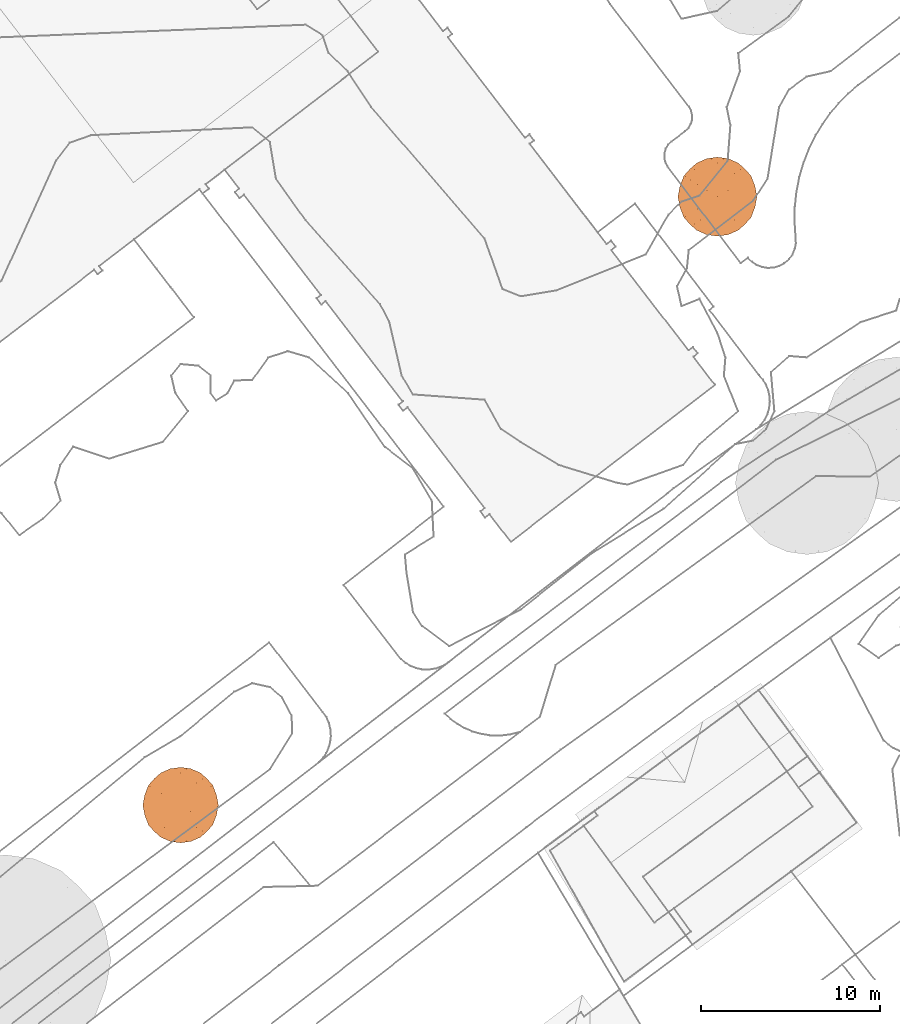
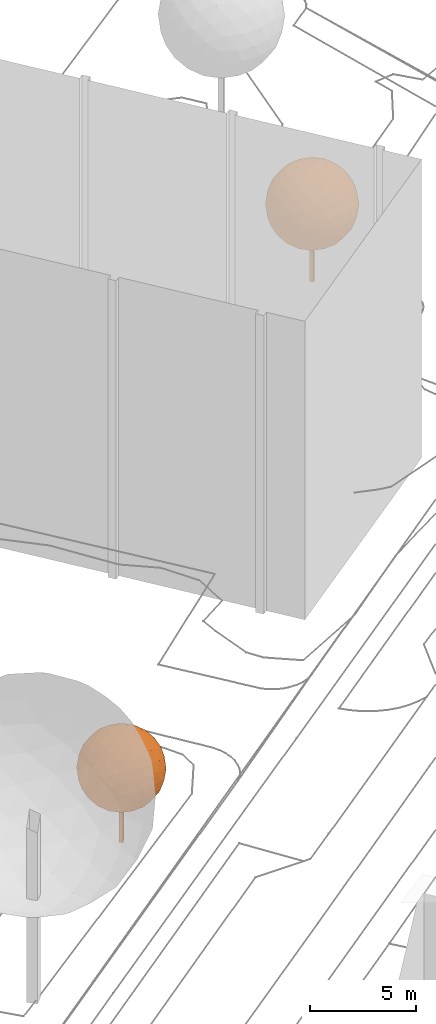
# Not in any storey, part 374 of 494: 2 proxies.
"""IFC2X3 model written with IfcOpenShell, lengths in metres."""

from ifc_helpers import new_model, si_unit, frame, origin_with_axes, place, context, subcontext, project, faceted_brep, element, save


model = new_model("IFC2X3")

# Units and contexts
model_context = context("Model", 3, precision=1e-05, world=origin_with_axes())
body_context = subcontext(model_context, "Body", "Model", "MODEL_VIEW")
ifc_project = project(units=[si_unit("AREAUNIT", "SQUARE_METRE"), si_unit("LENGTHUNIT", "METRE")], contexts=[model_context])

# Proxies
proxy_1_placement = place(None, frame((433.6777320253, 179.170737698, 504.3310243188), z_axis=(0.0, 0.0, 1.0), x_axis=(1.0, 0.0, 0.0)))
element("IfcBuildingElementProxy", 1, at=proxy_1_placement, Name="Tree TR1 CD44", ObjectType="NOTDEFINED", context=body_context, shape_type="Brep", body=[
    faceted_brep([(0.0, 0.1405498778, 0.0), (0.1405498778, 0.0, 0.0), (0.0, -0.1405498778, 0.0), (-0.1405498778, 0.0, 0.0), (0.0, -0.1405498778, 4.4155046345), (0.1405498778, 0.0, 4.4155046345), (0.0, 0.1405498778, 4.4155046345), (-0.1405498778, 0.0, 4.4155046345)], [[[0, 1, 2]], [[2, 3, 0]], [[4, 5, 6]], [[6, 7, 4]], [[4, 7, 2]], [[2, 7, 3]], [[7, 6, 3]], [[3, 6, 0]], [[5, 4, 1]], [[1, 4, 2]], [[6, 5, 0]], [[0, 5, 1]]]),
    faceted_brep([(-1.160684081, 1.8780262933, 4.4155046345), (-1.531695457, 1.5499446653, 4.7701183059), (-0.9579184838, 1.9045583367, 4.9892816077), (-1.786109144, 1.1038761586, 5.0977376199), (-1.2976842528, 1.5193551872, 5.3545177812), (-0.6822329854, 1.786109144, 5.5193807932), (-1.9045583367, 0.5737769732, 5.3734231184), (-1.5193551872, 0.9390131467, 5.7131888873), (-1.8780262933, 0.0, 5.5761887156), (-1.5499446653, 0.3546136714, 5.9472000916), (-1.1038761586, 0.6822329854, 6.2016137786), (-0.9390131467, 1.2976842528, 5.9348598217), (-0.3546136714, 1.531695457, 5.9654492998), (-0.5737769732, 0.9579184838, 6.3200629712), (0.0, 1.160684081, 6.2935309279), (-0.6033048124, 2.1237216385, 4.4155046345), (-0.3586711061, 2.0996972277, 4.9958466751), (0.0, 2.2077523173, 4.4155046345), (0.0, 1.8780262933, 5.5761887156), (0.3546136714, 1.531695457, 5.9654492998), (0.6822329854, 1.786109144, 5.5193807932), (0.3586711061, 2.0996972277, 4.9958466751), (0.6033048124, 2.1237216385, 4.4155046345), (0.9579184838, 1.9045583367, 4.9892816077), (1.160684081, 1.8780262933, 4.4155046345), (-0.9579184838, 1.9045583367, 3.8417276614), (-0.3586711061, 2.0996972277, 3.835162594), (-0.6822329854, 1.786109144, 3.3116284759), (0.3586711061, 2.0996972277, 3.835162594), (0.9579184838, 1.9045583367, 3.8417276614), (0.6822329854, 1.786109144, 3.3116284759), (0.0, 1.8780262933, 3.2548205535), (-0.3546136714, 1.531695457, 2.8655599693), (0.3546136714, 1.531695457, 2.8655599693), (0.0, 1.160684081, 2.5374783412), (-1.531695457, 1.5499446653, 4.0608909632), (-1.2976842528, 1.5193551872, 3.4764914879), (-1.786109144, 1.1038761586, 3.7332716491), (-0.9390131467, 1.2976842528, 2.8961494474), (-0.5737769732, 0.9579184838, 2.5109462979), (-1.1038761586, 0.6822329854, 2.6293954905), (-1.5193551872, 0.9390131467, 3.1178203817), (-1.9045583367, 0.5737769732, 3.4575861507), (-1.5499446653, 0.3546136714, 2.8838091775), (-1.8780262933, 0.0, 3.2548205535), (-1.8780262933, 1.160684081, 4.4155046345), (-2.0996972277, 0.5803420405, 4.0568335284), (-2.1237216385, 0.0, 3.8121998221), (-2.2077523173, 0.0, 4.4155046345), (-2.0996972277, 0.5803420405, 4.7741757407), (-2.1237216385, 0.0, 5.018809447), (1.531695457, 1.5499446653, 4.7701183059), (1.2976842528, 1.5193551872, 5.3545177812), (1.786109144, 1.1038761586, 5.0977376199), (0.9390131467, 1.2976842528, 5.9348598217), (0.5737769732, 0.9579184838, 6.3200629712), (1.1038761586, 0.6822329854, 6.2016137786), (1.5193551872, 0.9390131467, 5.7131888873), (1.9045583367, 0.5737769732, 5.3734231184), (1.5499446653, 0.3546136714, 5.9472000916), (1.8780262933, 0.0, 5.5761887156), (0.0, 0.6033048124, 6.539226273), (-0.5803420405, 0.3586711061, 6.5152018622), (0.0, 0.0, 6.6232569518), (-1.160684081, 0.0, 6.2935309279), (-1.5499446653, -0.3546136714, 5.9472000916), (-1.1038761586, -0.6822329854, 6.2016137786), (-0.5803420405, -0.3586711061, 6.5152018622), (0.0, -0.6033048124, 6.539226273), (-0.5737769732, -0.9579184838, 6.3200629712), (0.0, -1.160684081, 6.2935309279), (-1.9045583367, -0.5737769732, 5.3734231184), (-2.0996972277, -0.5803420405, 4.7741757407), (-1.786109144, -1.1038761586, 5.0977376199), (-2.0996972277, -0.5803420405, 4.0568335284), (-1.9045583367, -0.5737769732, 3.4575861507), (-1.786109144, -1.1038761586, 3.7332716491), (-1.8780262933, -1.160684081, 4.4155046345), (-1.531695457, -1.5499446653, 4.7701183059), (-1.531695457, -1.5499446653, 4.0608909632), (-1.160684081, -1.8780262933, 4.4155046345), (-1.5499446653, -0.3546136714, 2.8838091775), (-1.160684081, 0.0, 2.5374783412), (-1.1038761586, -0.6822329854, 2.6293954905), (-0.5803420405, 0.3586711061, 2.3158074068), (0.0, 0.6033048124, 2.2917829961), (0.0, 0.0, 2.2077523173), (-0.5803420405, -0.3586711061, 2.3158074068), (-0.5737769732, -0.9579184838, 2.5109462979), (0.0, -0.6033048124, 2.2917829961), (0.0, -1.160684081, 2.5374783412), (0.5737769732, 0.9579184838, 2.5109462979), (0.9390131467, 1.2976842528, 2.8961494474), (1.1038761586, 0.6822329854, 2.6293954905), (1.2976842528, 1.5193551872, 3.4764914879), (1.531695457, 1.5499446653, 4.0608909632), (1.786109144, 1.1038761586, 3.7332716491), (1.5193551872, 0.9390131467, 3.1178203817), (1.5499446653, 0.3546136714, 2.8838091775), (1.9045583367, 0.5737769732, 3.4575861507), (1.8780262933, 0.0, 3.2548205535), (1.160684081, -1.8780262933, 4.4155046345), (1.531695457, -1.5499446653, 4.7701183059), (0.9579184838, -1.9045583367, 4.9892816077), (1.786109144, -1.1038761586, 5.0977376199), (1.2976842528, -1.5193551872, 5.3545177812), (0.6822329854, -1.786109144, 5.5193807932), (1.9045583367, -0.5737769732, 5.3734231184), (1.5193551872, -0.9390131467, 5.7131888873), (1.5499446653, -0.3546136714, 5.9472000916), (1.1038761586, -0.6822329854, 6.2016137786), (0.9390131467, -1.2976842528, 5.9348598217), (0.3546136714, -1.531695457, 5.9654492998), (0.5737769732, -0.9579184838, 6.3200629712), (0.6033048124, -2.1237216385, 4.4155046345), (0.3586711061, -2.0996972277, 4.9958466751), (0.0, -2.2077523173, 4.4155046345), (0.0, -1.8780262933, 5.5761887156), (-0.3546136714, -1.531695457, 5.9654492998), (-0.6822329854, -1.786109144, 5.5193807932), (-0.3586711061, -2.0996972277, 4.9958466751), (-0.6033048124, -2.1237216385, 4.4155046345), (-0.9579184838, -1.9045583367, 4.9892816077), (0.9579184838, -1.9045583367, 3.8417276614), (0.3586711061, -2.0996972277, 3.835162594), (0.6822329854, -1.786109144, 3.3116284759), (-0.3586711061, -2.0996972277, 3.835162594), (-0.9579184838, -1.9045583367, 3.8417276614), (-0.6822329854, -1.786109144, 3.3116284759), (0.0, -1.8780262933, 3.2548205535), (0.3546136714, -1.531695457, 2.8655599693), (-0.3546136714, -1.531695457, 2.8655599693), (1.531695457, -1.5499446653, 4.0608909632), (1.2976842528, -1.5193551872, 3.4764914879), (1.786109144, -1.1038761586, 3.7332716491), (0.9390131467, -1.2976842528, 2.8961494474), (0.5737769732, -0.9579184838, 2.5109462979), (1.1038761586, -0.6822329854, 2.6293954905), (1.5193551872, -0.9390131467, 3.1178203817), (1.9045583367, -0.5737769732, 3.4575861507), (1.5499446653, -0.3546136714, 2.8838091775), (1.8780262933, -1.160684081, 4.4155046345), (2.0996972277, -0.5803420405, 4.0568335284), (2.1237216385, 0.0, 3.8121998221), (2.2077523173, 0.0, 4.4155046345), (2.0996972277, -0.5803420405, 4.7741757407), (2.1237216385, 0.0, 5.018809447), (0.5803420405, -0.3586711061, 6.5152018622), (1.160684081, 0.0, 6.2935309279), (0.5803420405, 0.3586711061, 6.5152018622), (-1.2976842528, -1.5193551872, 5.3545177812), (-0.9390131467, -1.2976842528, 5.9348598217), (-1.5193551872, -0.9390131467, 5.7131888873), (-0.9390131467, -1.2976842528, 2.8961494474), (-1.2976842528, -1.5193551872, 3.4764914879), (-1.5193551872, -0.9390131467, 3.1178203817), (1.160684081, 0.0, 2.5374783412), (0.5803420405, -0.3586711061, 2.3158074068), (0.5803420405, 0.3586711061, 2.3158074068), (2.0996972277, 0.5803420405, 4.7741757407), (2.0996972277, 0.5803420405, 4.0568335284), (1.8780262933, 1.160684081, 4.4155046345)], [[[0, 1, 2]], [[1, 3, 4]], [[2, 4, 5]], [[1, 4, 2]], [[3, 6, 7]], [[6, 8, 9]], [[7, 9, 10]], [[6, 9, 7]], [[5, 11, 12]], [[11, 10, 13]], [[12, 13, 14]], [[11, 13, 12]], [[3, 7, 4]], [[7, 10, 11]], [[4, 11, 5]], [[7, 11, 4]], [[0, 2, 15]], [[2, 5, 16]], [[15, 16, 17]], [[2, 16, 15]], [[5, 12, 18]], [[12, 14, 19]], [[18, 19, 20]], [[12, 19, 18]], [[17, 21, 22]], [[21, 20, 23]], [[22, 23, 24]], [[21, 23, 22]], [[5, 18, 16]], [[18, 20, 21]], [[16, 21, 17]], [[18, 21, 16]], [[0, 15, 25]], [[15, 17, 26]], [[25, 26, 27]], [[15, 26, 25]], [[17, 22, 28]], [[22, 24, 29]], [[28, 29, 30]], [[22, 29, 28]], [[27, 31, 32]], [[31, 30, 33]], [[32, 33, 34]], [[31, 33, 32]], [[17, 28, 26]], [[28, 30, 31]], [[26, 31, 27]], [[28, 31, 26]], [[0, 25, 35]], [[25, 27, 36]], [[35, 36, 37]], [[25, 36, 35]], [[27, 32, 38]], [[32, 34, 39]], [[38, 39, 40]], [[32, 39, 38]], [[37, 41, 42]], [[41, 40, 43]], [[42, 43, 44]], [[41, 43, 42]], [[27, 38, 36]], [[38, 40, 41]], [[36, 41, 37]], [[38, 41, 36]], [[0, 35, 1]], [[35, 37, 45]], [[1, 45, 3]], [[35, 45, 1]], [[37, 42, 46]], [[42, 44, 47]], [[46, 47, 48]], [[42, 47, 46]], [[3, 49, 6]], [[49, 48, 50]], [[6, 50, 8]], [[49, 50, 6]], [[37, 46, 45]], [[46, 48, 49]], [[45, 49, 3]], [[46, 49, 45]], [[24, 23, 51]], [[23, 20, 52]], [[51, 52, 53]], [[23, 52, 51]], [[20, 19, 54]], [[19, 14, 55]], [[54, 55, 56]], [[19, 55, 54]], [[53, 57, 58]], [[57, 56, 59]], [[58, 59, 60]], [[57, 59, 58]], [[20, 54, 52]], [[54, 56, 57]], [[52, 57, 53]], [[54, 57, 52]], [[14, 13, 61]], [[13, 10, 62]], [[61, 62, 63]], [[13, 62, 61]], [[10, 9, 64]], [[9, 8, 65]], [[64, 65, 66]], [[9, 65, 64]], [[63, 67, 68]], [[67, 66, 69]], [[68, 69, 70]], [[67, 69, 68]], [[10, 64, 62]], [[64, 66, 67]], [[62, 67, 63]], [[64, 67, 62]], [[8, 50, 71]], [[50, 48, 72]], [[71, 72, 73]], [[50, 72, 71]], [[48, 47, 74]], [[47, 44, 75]], [[74, 75, 76]], [[47, 75, 74]], [[73, 77, 78]], [[77, 76, 79]], [[78, 79, 80]], [[77, 79, 78]], [[48, 74, 72]], [[74, 76, 77]], [[72, 77, 73]], [[74, 77, 72]], [[44, 43, 81]], [[43, 40, 82]], [[81, 82, 83]], [[43, 82, 81]], [[40, 39, 84]], [[39, 34, 85]], [[84, 85, 86]], [[39, 85, 84]], [[83, 87, 88]], [[87, 86, 89]], [[88, 89, 90]], [[87, 89, 88]], [[40, 84, 82]], [[84, 86, 87]], [[82, 87, 83]], [[84, 87, 82]], [[34, 33, 91]], [[33, 30, 92]], [[91, 92, 93]], [[33, 92, 91]], [[30, 29, 94]], [[29, 24, 95]], [[94, 95, 96]], [[29, 95, 94]], [[93, 97, 98]], [[97, 96, 99]], [[98, 99, 100]], [[97, 99, 98]], [[30, 94, 92]], [[94, 96, 97]], [[92, 97, 93]], [[94, 97, 92]], [[101, 102, 103]], [[102, 104, 105]], [[103, 105, 106]], [[102, 105, 103]], [[104, 107, 108]], [[107, 60, 109]], [[108, 109, 110]], [[107, 109, 108]], [[106, 111, 112]], [[111, 110, 113]], [[112, 113, 70]], [[111, 113, 112]], [[104, 108, 105]], [[108, 110, 111]], [[105, 111, 106]], [[108, 111, 105]], [[101, 103, 114]], [[103, 106, 115]], [[114, 115, 116]], [[103, 115, 114]], [[106, 112, 117]], [[112, 70, 118]], [[117, 118, 119]], [[112, 118, 117]], [[116, 120, 121]], [[120, 119, 122]], [[121, 122, 80]], [[120, 122, 121]], [[106, 117, 115]], [[117, 119, 120]], [[115, 120, 116]], [[117, 120, 115]], [[101, 114, 123]], [[114, 116, 124]], [[123, 124, 125]], [[114, 124, 123]], [[116, 121, 126]], [[121, 80, 127]], [[126, 127, 128]], [[121, 127, 126]], [[125, 129, 130]], [[129, 128, 131]], [[130, 131, 90]], [[129, 131, 130]], [[116, 126, 124]], [[126, 128, 129]], [[124, 129, 125]], [[126, 129, 124]], [[101, 123, 132]], [[123, 125, 133]], [[132, 133, 134]], [[123, 133, 132]], [[125, 130, 135]], [[130, 90, 136]], [[135, 136, 137]], [[130, 136, 135]], [[134, 138, 139]], [[138, 137, 140]], [[139, 140, 100]], [[138, 140, 139]], [[125, 135, 133]], [[135, 137, 138]], [[133, 138, 134]], [[135, 138, 133]], [[101, 132, 102]], [[132, 134, 141]], [[102, 141, 104]], [[132, 141, 102]], [[134, 139, 142]], [[139, 100, 143]], [[142, 143, 144]], [[139, 143, 142]], [[104, 145, 107]], [[145, 144, 146]], [[107, 146, 60]], [[145, 146, 107]], [[134, 142, 141]], [[142, 144, 145]], [[141, 145, 104]], [[142, 145, 141]], [[70, 113, 68]], [[113, 110, 147]], [[68, 147, 63]], [[113, 147, 68]], [[110, 109, 148]], [[109, 60, 59]], [[148, 59, 56]], [[109, 59, 148]], [[63, 149, 61]], [[149, 56, 55]], [[61, 55, 14]], [[149, 55, 61]], [[110, 148, 147]], [[148, 56, 149]], [[147, 149, 63]], [[148, 149, 147]], [[80, 122, 78]], [[122, 119, 150]], [[78, 150, 73]], [[122, 150, 78]], [[119, 118, 151]], [[118, 70, 69]], [[151, 69, 66]], [[118, 69, 151]], [[73, 152, 71]], [[152, 66, 65]], [[71, 65, 8]], [[152, 65, 71]], [[119, 151, 150]], [[151, 66, 152]], [[150, 152, 73]], [[151, 152, 150]], [[90, 131, 88]], [[131, 128, 153]], [[88, 153, 83]], [[131, 153, 88]], [[128, 127, 154]], [[127, 80, 79]], [[154, 79, 76]], [[127, 79, 154]], [[83, 155, 81]], [[155, 76, 75]], [[81, 75, 44]], [[155, 75, 81]], [[128, 154, 153]], [[154, 76, 155]], [[153, 155, 83]], [[154, 155, 153]], [[100, 140, 98]], [[140, 137, 156]], [[98, 156, 93]], [[140, 156, 98]], [[137, 136, 157]], [[136, 90, 89]], [[157, 89, 86]], [[136, 89, 157]], [[93, 158, 91]], [[158, 86, 85]], [[91, 85, 34]], [[158, 85, 91]], [[137, 157, 156]], [[157, 86, 158]], [[156, 158, 93]], [[157, 158, 156]], [[60, 146, 58]], [[146, 144, 159]], [[58, 159, 53]], [[146, 159, 58]], [[144, 143, 160]], [[143, 100, 99]], [[160, 99, 96]], [[143, 99, 160]], [[53, 161, 51]], [[161, 96, 95]], [[51, 95, 24]], [[161, 95, 51]], [[144, 160, 159]], [[160, 96, 161]], [[159, 161, 53]], [[160, 161, 159]]]),
])
proxy_2_placement = place(None, frame((403.6777320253, 145.1707387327, 503.232124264), z_axis=(0.0, 0.0, 1.0), x_axis=(1.0, 0.0, 0.0)))
element("IfcBuildingElementProxy", 2, at=proxy_2_placement, Name="Tree TR1 CD42", ObjectType="NOTDEFINED", context=body_context, shape_type="Brep", body=[
    faceted_brep([(0.0, 0.1344042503, 0.0), (0.1344042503, 0.0, 0.0), (0.0, -0.1344042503, 0.0), (-0.1344042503, 0.0, 0.0), (0.0, -0.1344042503, 4.2224340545), (0.1344042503, 0.0, 4.2224340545), (0.0, 0.1344042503, 4.2224340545), (-0.1344042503, 0.0, 4.2224340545)], [[[0, 1, 2]], [[2, 3, 0]], [[4, 5, 6]], [[6, 7, 4]], [[4, 7, 2]], [[2, 7, 3]], [[7, 6, 3]], [[3, 6, 0]], [[5, 4, 1]], [[1, 4, 2]], [[6, 5, 0]], [[0, 5, 1]]]),
    faceted_brep([(-1.1099324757, 1.7959084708, 4.2224340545), (-1.4647211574, 1.4821724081, 4.5615420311), (-0.9160329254, 1.8212803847, 4.7711222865), (-1.7080104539, 1.0556085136, 4.8748359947), (-1.240942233, 1.4529204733, 5.1203882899), (-0.6524019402, 1.7080104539, 5.2780425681), (-1.8212803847, 0.548688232, 5.1384669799), (-1.4529204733, 0.8979542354, 5.4633762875), (-1.7959084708, 0.0, 5.3323665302), (-1.4821724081, 0.3391079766, 5.6871552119), (-1.0556085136, 0.6524019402, 5.9304445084), (-0.8979542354, 1.240942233, 5.6753545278), (-0.3391079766, 1.4647211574, 5.7046064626), (-0.548688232, 0.9160329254, 6.0437144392), (0.0, 1.1099324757, 6.0183425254), (-0.5769249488, 2.0308606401, 4.2224340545), (-0.3429879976, 2.0078867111, 4.7774002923), (0.0, 2.1112170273, 4.2224340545), (0.0, 1.7959084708, 5.3323665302), (0.3391079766, 1.4647211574, 5.7046064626), (0.6524019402, 1.7080104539, 5.2780425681), (0.3429879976, 2.0078867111, 4.7774002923), (0.5769249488, 2.0308606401, 4.2224340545), (0.9160329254, 1.8212803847, 4.7711222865), (1.1099324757, 1.7959084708, 4.2224340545), (-0.9160329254, 1.8212803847, 3.6737458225), (-0.3429879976, 2.0078867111, 3.6674678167), (-0.6524019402, 1.7080104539, 3.1668255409), (0.3429879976, 2.0078867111, 3.6674678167), (0.9160329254, 1.8212803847, 3.6737458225), (0.6524019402, 1.7080104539, 3.1668255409), (0.0, 1.7959084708, 3.1125015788), (-0.3391079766, 1.4647211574, 2.7402616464), (0.3391079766, 1.4647211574, 2.7402616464), (0.0, 1.1099324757, 2.4265255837), (-1.4647211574, 1.4821724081, 3.8833260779), (-1.240942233, 1.4529204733, 3.3244798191), (-1.7080104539, 1.0556085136, 3.5700321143), (-0.8979542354, 1.240942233, 2.7695135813), (-0.548688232, 0.9160329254, 2.4011536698), (-1.0556085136, 0.6524019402, 2.5144236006), (-1.4529204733, 0.8979542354, 2.9814918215), (-1.8212803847, 0.548688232, 3.3064011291), (-1.4821724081, 0.3391079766, 2.7577128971), (-1.7959084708, 0.0, 3.1125015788), (-1.7959084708, 1.1099324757, 4.2224340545), (-2.0078867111, 0.5549662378, 3.8794460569), (-2.0308606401, 0.0, 3.6455091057), (-2.1112170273, 0.0, 4.2224340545), (-2.0078867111, 0.5549662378, 4.5654220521), (-2.0308606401, 0.0, 4.7993590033), (1.4647211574, 1.4821724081, 4.5615420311), (1.240942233, 1.4529204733, 5.1203882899), (1.7080104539, 1.0556085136, 4.8748359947), (0.8979542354, 1.240942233, 5.6753545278), (0.548688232, 0.9160329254, 6.0437144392), (1.0556085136, 0.6524019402, 5.9304445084), (1.4529204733, 0.8979542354, 5.4633762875), (1.8212803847, 0.548688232, 5.1384669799), (1.4821724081, 0.3391079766, 5.6871552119), (1.7959084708, 0.0, 5.3323665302), (0.0, 0.5769249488, 6.2532946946), (-0.5549662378, 0.3429879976, 6.2303207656), (0.0, 0.0, 6.3336510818), (-1.1099324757, 0.0, 6.0183425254), (-1.4821724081, -0.3391079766, 5.6871552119), (-1.0556085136, -0.6524019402, 5.9304445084), (-0.5549662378, -0.3429879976, 6.2303207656), (0.0, -0.5769249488, 6.2532946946), (-0.548688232, -0.9160329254, 6.0437144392), (0.0, -1.1099324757, 6.0183425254), (-1.8212803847, -0.548688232, 5.1384669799), (-2.0078867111, -0.5549662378, 4.5654220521), (-1.7080104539, -1.0556085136, 4.8748359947), (-2.0078867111, -0.5549662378, 3.8794460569), (-1.8212803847, -0.548688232, 3.3064011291), (-1.7080104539, -1.0556085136, 3.5700321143), (-1.7959084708, -1.1099324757, 4.2224340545), (-1.4647211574, -1.4821724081, 4.5615420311), (-1.4647211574, -1.4821724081, 3.8833260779), (-1.1099324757, -1.7959084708, 4.2224340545), (-1.4821724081, -0.3391079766, 2.7577128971), (-1.1099324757, 0.0, 2.4265255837), (-1.0556085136, -0.6524019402, 2.5144236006), (-0.5549662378, 0.3429879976, 2.2145473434), (0.0, 0.5769249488, 2.1915734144), (0.0, 0.0, 2.1112170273), (-0.5549662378, -0.3429879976, 2.2145473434), (-0.548688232, -0.9160329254, 2.4011536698), (0.0, -0.5769249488, 2.1915734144), (0.0, -1.1099324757, 2.4265255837), (0.548688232, 0.9160329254, 2.4011536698), (0.8979542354, 1.240942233, 2.7695135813), (1.0556085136, 0.6524019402, 2.5144236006), (1.240942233, 1.4529204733, 3.3244798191), (1.4647211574, 1.4821724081, 3.8833260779), (1.7080104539, 1.0556085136, 3.5700321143), (1.4529204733, 0.8979542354, 2.9814918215), (1.4821724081, 0.3391079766, 2.7577128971), (1.8212803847, 0.548688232, 3.3064011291), (1.7959084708, 0.0, 3.1125015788), (1.1099324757, -1.7959084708, 4.2224340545), (1.4647211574, -1.4821724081, 4.5615420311), (0.9160329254, -1.8212803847, 4.7711222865), (1.7080104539, -1.0556085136, 4.8748359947), (1.240942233, -1.4529204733, 5.1203882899), (0.6524019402, -1.7080104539, 5.2780425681), (1.8212803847, -0.548688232, 5.1384669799), (1.4529204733, -0.8979542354, 5.4633762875), (1.4821724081, -0.3391079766, 5.6871552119), (1.0556085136, -0.6524019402, 5.9304445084), (0.8979542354, -1.240942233, 5.6753545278), (0.3391079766, -1.4647211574, 5.7046064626), (0.548688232, -0.9160329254, 6.0437144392), (0.5769249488, -2.0308606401, 4.2224340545), (0.3429879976, -2.0078867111, 4.7774002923), (0.0, -2.1112170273, 4.2224340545), (0.0, -1.7959084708, 5.3323665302), (-0.3391079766, -1.4647211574, 5.7046064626), (-0.6524019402, -1.7080104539, 5.2780425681), (-0.3429879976, -2.0078867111, 4.7774002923), (-0.5769249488, -2.0308606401, 4.2224340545), (-0.9160329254, -1.8212803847, 4.7711222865), (0.9160329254, -1.8212803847, 3.6737458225), (0.3429879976, -2.0078867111, 3.6674678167), (0.6524019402, -1.7080104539, 3.1668255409), (-0.3429879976, -2.0078867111, 3.6674678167), (-0.9160329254, -1.8212803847, 3.6737458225), (-0.6524019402, -1.7080104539, 3.1668255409), (0.0, -1.7959084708, 3.1125015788), (0.3391079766, -1.4647211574, 2.7402616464), (-0.3391079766, -1.4647211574, 2.7402616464), (1.4647211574, -1.4821724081, 3.8833260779), (1.240942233, -1.4529204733, 3.3244798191), (1.7080104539, -1.0556085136, 3.5700321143), (0.8979542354, -1.240942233, 2.7695135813), (0.548688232, -0.9160329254, 2.4011536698), (1.0556085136, -0.6524019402, 2.5144236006), (1.4529204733, -0.8979542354, 2.9814918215), (1.8212803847, -0.548688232, 3.3064011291), (1.4821724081, -0.3391079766, 2.7577128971), (1.7959084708, -1.1099324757, 4.2224340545), (2.0078867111, -0.5549662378, 3.8794460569), (2.0308606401, 0.0, 3.6455091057), (2.1112170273, 0.0, 4.2224340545), (2.0078867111, -0.5549662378, 4.5654220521), (2.0308606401, 0.0, 4.7993590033), (0.5549662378, -0.3429879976, 6.2303207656), (1.1099324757, 0.0, 6.0183425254), (0.5549662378, 0.3429879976, 6.2303207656), (-1.240942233, -1.4529204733, 5.1203882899), (-0.8979542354, -1.240942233, 5.6753545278), (-1.4529204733, -0.8979542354, 5.4633762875), (-0.8979542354, -1.240942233, 2.7695135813), (-1.240942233, -1.4529204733, 3.3244798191), (-1.4529204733, -0.8979542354, 2.9814918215), (1.1099324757, 0.0, 2.4265255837), (0.5549662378, -0.3429879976, 2.2145473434), (0.5549662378, 0.3429879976, 2.2145473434), (2.0078867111, 0.5549662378, 4.5654220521), (2.0078867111, 0.5549662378, 3.8794460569), (1.7959084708, 1.1099324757, 4.2224340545)], [[[0, 1, 2]], [[1, 3, 4]], [[2, 4, 5]], [[1, 4, 2]], [[3, 6, 7]], [[6, 8, 9]], [[7, 9, 10]], [[6, 9, 7]], [[5, 11, 12]], [[11, 10, 13]], [[12, 13, 14]], [[11, 13, 12]], [[3, 7, 4]], [[7, 10, 11]], [[4, 11, 5]], [[7, 11, 4]], [[0, 2, 15]], [[2, 5, 16]], [[15, 16, 17]], [[2, 16, 15]], [[5, 12, 18]], [[12, 14, 19]], [[18, 19, 20]], [[12, 19, 18]], [[17, 21, 22]], [[21, 20, 23]], [[22, 23, 24]], [[21, 23, 22]], [[5, 18, 16]], [[18, 20, 21]], [[16, 21, 17]], [[18, 21, 16]], [[0, 15, 25]], [[15, 17, 26]], [[25, 26, 27]], [[15, 26, 25]], [[17, 22, 28]], [[22, 24, 29]], [[28, 29, 30]], [[22, 29, 28]], [[27, 31, 32]], [[31, 30, 33]], [[32, 33, 34]], [[31, 33, 32]], [[17, 28, 26]], [[28, 30, 31]], [[26, 31, 27]], [[28, 31, 26]], [[0, 25, 35]], [[25, 27, 36]], [[35, 36, 37]], [[25, 36, 35]], [[27, 32, 38]], [[32, 34, 39]], [[38, 39, 40]], [[32, 39, 38]], [[37, 41, 42]], [[41, 40, 43]], [[42, 43, 44]], [[41, 43, 42]], [[27, 38, 36]], [[38, 40, 41]], [[36, 41, 37]], [[38, 41, 36]], [[0, 35, 1]], [[35, 37, 45]], [[1, 45, 3]], [[35, 45, 1]], [[37, 42, 46]], [[42, 44, 47]], [[46, 47, 48]], [[42, 47, 46]], [[3, 49, 6]], [[49, 48, 50]], [[6, 50, 8]], [[49, 50, 6]], [[37, 46, 45]], [[46, 48, 49]], [[45, 49, 3]], [[46, 49, 45]], [[24, 23, 51]], [[23, 20, 52]], [[51, 52, 53]], [[23, 52, 51]], [[20, 19, 54]], [[19, 14, 55]], [[54, 55, 56]], [[19, 55, 54]], [[53, 57, 58]], [[57, 56, 59]], [[58, 59, 60]], [[57, 59, 58]], [[20, 54, 52]], [[54, 56, 57]], [[52, 57, 53]], [[54, 57, 52]], [[14, 13, 61]], [[13, 10, 62]], [[61, 62, 63]], [[13, 62, 61]], [[10, 9, 64]], [[9, 8, 65]], [[64, 65, 66]], [[9, 65, 64]], [[63, 67, 68]], [[67, 66, 69]], [[68, 69, 70]], [[67, 69, 68]], [[10, 64, 62]], [[64, 66, 67]], [[62, 67, 63]], [[64, 67, 62]], [[8, 50, 71]], [[50, 48, 72]], [[71, 72, 73]], [[50, 72, 71]], [[48, 47, 74]], [[47, 44, 75]], [[74, 75, 76]], [[47, 75, 74]], [[73, 77, 78]], [[77, 76, 79]], [[78, 79, 80]], [[77, 79, 78]], [[48, 74, 72]], [[74, 76, 77]], [[72, 77, 73]], [[74, 77, 72]], [[44, 43, 81]], [[43, 40, 82]], [[81, 82, 83]], [[43, 82, 81]], [[40, 39, 84]], [[39, 34, 85]], [[84, 85, 86]], [[39, 85, 84]], [[83, 87, 88]], [[87, 86, 89]], [[88, 89, 90]], [[87, 89, 88]], [[40, 84, 82]], [[84, 86, 87]], [[82, 87, 83]], [[84, 87, 82]], [[34, 33, 91]], [[33, 30, 92]], [[91, 92, 93]], [[33, 92, 91]], [[30, 29, 94]], [[29, 24, 95]], [[94, 95, 96]], [[29, 95, 94]], [[93, 97, 98]], [[97, 96, 99]], [[98, 99, 100]], [[97, 99, 98]], [[30, 94, 92]], [[94, 96, 97]], [[92, 97, 93]], [[94, 97, 92]], [[101, 102, 103]], [[102, 104, 105]], [[103, 105, 106]], [[102, 105, 103]], [[104, 107, 108]], [[107, 60, 109]], [[108, 109, 110]], [[107, 109, 108]], [[106, 111, 112]], [[111, 110, 113]], [[112, 113, 70]], [[111, 113, 112]], [[104, 108, 105]], [[108, 110, 111]], [[105, 111, 106]], [[108, 111, 105]], [[101, 103, 114]], [[103, 106, 115]], [[114, 115, 116]], [[103, 115, 114]], [[106, 112, 117]], [[112, 70, 118]], [[117, 118, 119]], [[112, 118, 117]], [[116, 120, 121]], [[120, 119, 122]], [[121, 122, 80]], [[120, 122, 121]], [[106, 117, 115]], [[117, 119, 120]], [[115, 120, 116]], [[117, 120, 115]], [[101, 114, 123]], [[114, 116, 124]], [[123, 124, 125]], [[114, 124, 123]], [[116, 121, 126]], [[121, 80, 127]], [[126, 127, 128]], [[121, 127, 126]], [[125, 129, 130]], [[129, 128, 131]], [[130, 131, 90]], [[129, 131, 130]], [[116, 126, 124]], [[126, 128, 129]], [[124, 129, 125]], [[126, 129, 124]], [[101, 123, 132]], [[123, 125, 133]], [[132, 133, 134]], [[123, 133, 132]], [[125, 130, 135]], [[130, 90, 136]], [[135, 136, 137]], [[130, 136, 135]], [[134, 138, 139]], [[138, 137, 140]], [[139, 140, 100]], [[138, 140, 139]], [[125, 135, 133]], [[135, 137, 138]], [[133, 138, 134]], [[135, 138, 133]], [[101, 132, 102]], [[132, 134, 141]], [[102, 141, 104]], [[132, 141, 102]], [[134, 139, 142]], [[139, 100, 143]], [[142, 143, 144]], [[139, 143, 142]], [[104, 145, 107]], [[145, 144, 146]], [[107, 146, 60]], [[145, 146, 107]], [[134, 142, 141]], [[142, 144, 145]], [[141, 145, 104]], [[142, 145, 141]], [[70, 113, 68]], [[113, 110, 147]], [[68, 147, 63]], [[113, 147, 68]], [[110, 109, 148]], [[109, 60, 59]], [[148, 59, 56]], [[109, 59, 148]], [[63, 149, 61]], [[149, 56, 55]], [[61, 55, 14]], [[149, 55, 61]], [[110, 148, 147]], [[148, 56, 149]], [[147, 149, 63]], [[148, 149, 147]], [[80, 122, 78]], [[122, 119, 150]], [[78, 150, 73]], [[122, 150, 78]], [[119, 118, 151]], [[118, 70, 69]], [[151, 69, 66]], [[118, 69, 151]], [[73, 152, 71]], [[152, 66, 65]], [[71, 65, 8]], [[152, 65, 71]], [[119, 151, 150]], [[151, 66, 152]], [[150, 152, 73]], [[151, 152, 150]], [[90, 131, 88]], [[131, 128, 153]], [[88, 153, 83]], [[131, 153, 88]], [[128, 127, 154]], [[127, 80, 79]], [[154, 79, 76]], [[127, 79, 154]], [[83, 155, 81]], [[155, 76, 75]], [[81, 75, 44]], [[155, 75, 81]], [[128, 154, 153]], [[154, 76, 155]], [[153, 155, 83]], [[154, 155, 153]], [[100, 140, 98]], [[140, 137, 156]], [[98, 156, 93]], [[140, 156, 98]], [[137, 136, 157]], [[136, 90, 89]], [[157, 89, 86]], [[136, 89, 157]], [[93, 158, 91]], [[158, 86, 85]], [[91, 85, 34]], [[158, 85, 91]], [[137, 157, 156]], [[157, 86, 158]], [[156, 158, 93]], [[157, 158, 156]], [[60, 146, 58]], [[146, 144, 159]], [[58, 159, 53]], [[146, 159, 58]], [[144, 143, 160]], [[143, 100, 99]], [[160, 99, 96]], [[143, 99, 160]], [[53, 161, 51]], [[161, 96, 95]], [[51, 95, 24]], [[161, 95, 51]], [[144, 160, 159]], [[160, 96, 161]], [[159, 161, 53]], [[160, 161, 159]]]),
])

save(model, "model.ifc")
